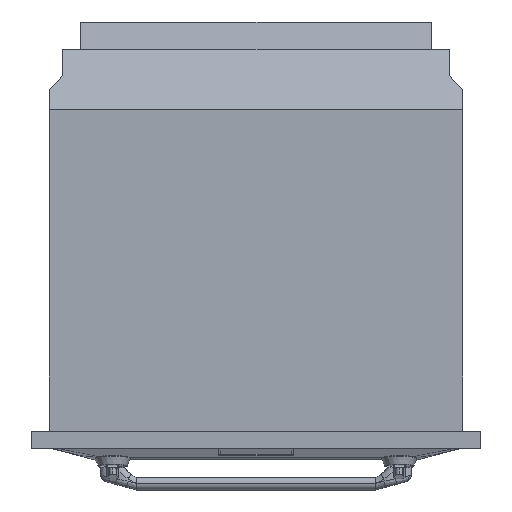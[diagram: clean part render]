
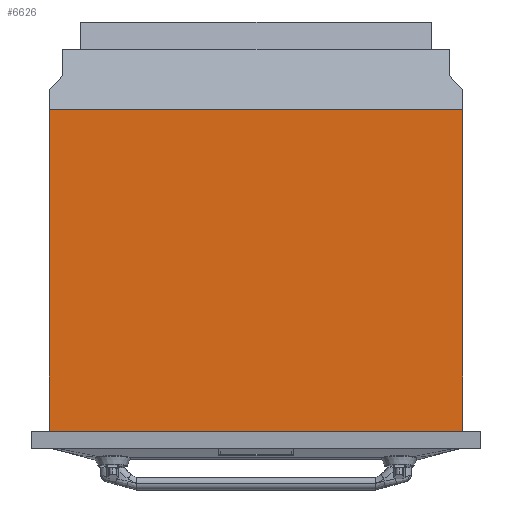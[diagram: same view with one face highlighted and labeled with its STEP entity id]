
A CAD part, top view. The second image highlights one B-rep face of the part: STEP entity #6626.
In plain terms, the highlighted planar face has unit normal (0, 0, 1).
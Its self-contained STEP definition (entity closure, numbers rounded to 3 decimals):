
#519=LINE('',#12158,#1018);
#520=LINE('',#12161,#1019);
#521=LINE('',#12163,#1020);
#522=LINE('',#12165,#1021);
#1018=VECTOR('',#7504,1000.);
#1019=VECTOR('',#7505,1000.);
#1020=VECTOR('',#7506,1000.);
#1021=VECTOR('',#7507,1000.);
#1788=ORIENTED_EDGE('',*,*,#3500,.T.);
#1789=ORIENTED_EDGE('',*,*,#3501,.F.);
#1790=ORIENTED_EDGE('',*,*,#3502,.F.);
#1791=ORIENTED_EDGE('',*,*,#3503,.T.);
#3500=EDGE_CURVE('',#4377,#4378,#519,.T.);
#3501=EDGE_CURVE('',#4379,#4378,#520,.T.);
#3502=EDGE_CURVE('',#4380,#4379,#521,.T.);
#3503=EDGE_CURVE('',#4380,#4377,#522,.T.);
#4377=VERTEX_POINT('',#12159);
#4378=VERTEX_POINT('',#12160);
#4379=VERTEX_POINT('',#12162);
#4380=VERTEX_POINT('',#12164);
#5128=EDGE_LOOP('',(#1788,#1789,#1790,#1791));
#5516=FACE_BOUND('',#5128,.T.);
#5858=PLANE('',#6997);
#6626=ADVANCED_FACE('',(#5516),#5858,.F.);
#6997=AXIS2_PLACEMENT_3D('',#12157,#7502,#7503);
#7502=DIRECTION('',(0.,0.,-1.));
#7503=DIRECTION('',(0.,-1.,0.));
#7504=DIRECTION('',(0.,-1.,0.));
#7505=DIRECTION('',(-1.,0.,0.));
#7506=DIRECTION('',(0.,-1.,0.));
#7507=DIRECTION('',(-1.,0.,0.));
#12157=CARTESIAN_POINT('',(274.7,-35.675,260.1));
#12158=CARTESIAN_POINT('',(-274.7,-35.675,260.1));
#12159=CARTESIAN_POINT('',(-274.7,-35.675,260.1));
#12160=CARTESIAN_POINT('',(-274.7,-466.05,260.1));
#12161=CARTESIAN_POINT('',(274.7,-466.05,260.1));
#12162=CARTESIAN_POINT('',(274.7,-466.05,260.1));
#12163=CARTESIAN_POINT('',(274.7,-35.675,260.1));
#12164=CARTESIAN_POINT('',(274.7,-35.675,260.1));
#12165=CARTESIAN_POINT('',(274.7,-35.675,260.1));
